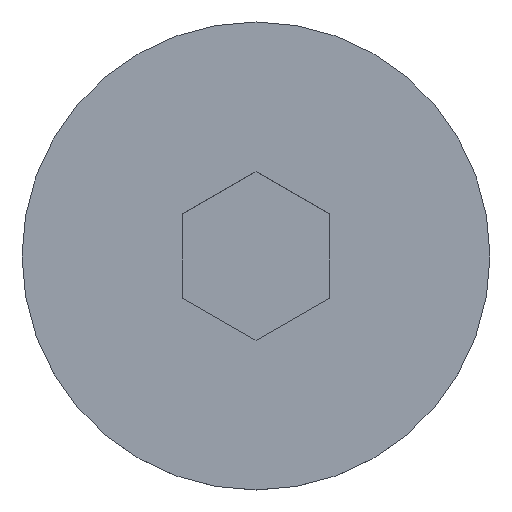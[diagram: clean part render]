
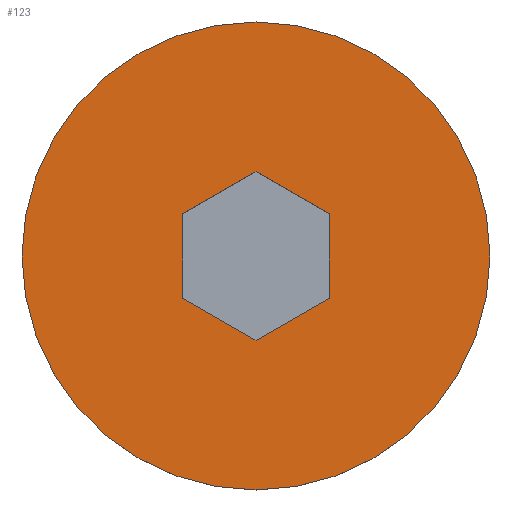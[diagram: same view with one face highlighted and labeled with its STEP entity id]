
A CAD part, top view. The second image highlights one B-rep face of the part: STEP entity #123.
In plain terms, the highlighted planar face has unit normal (0, 0, 1).
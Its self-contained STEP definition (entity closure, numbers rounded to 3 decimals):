
#6 = DIRECTION ( 'NONE',  ( 0., 0., -1. ) ) ;
#7 = EDGE_CURVE ( 'NONE', #260, #57, #319, .T. ) ;
#12 = LINE ( 'NONE', #401, #335 ) ;
#25 = CARTESIAN_POINT ( 'NONE',  ( 0., 3.464, 5.22 ) ) ;
#27 = CARTESIAN_POINT ( 'NONE',  ( -3., 1.732, 5.22 ) ) ;
#38 = VECTOR ( 'NONE', #361, 1000. ) ;
#51 = VERTEX_POINT ( 'NONE', #300 ) ;
#57 = VERTEX_POINT ( 'NONE', #27 ) ;
#58 = ORIENTED_EDGE ( 'NONE', *, *, #316, .F. ) ;
#71 = VECTOR ( 'NONE', #242, 1000. ) ;
#83 = CARTESIAN_POINT ( 'NONE',  ( -3., -1.732, 5.22 ) ) ;
#85 = DIRECTION ( 'NONE',  ( 0., 0., 1. ) ) ;
#86 = ORIENTED_EDGE ( 'NONE', *, *, #209, .F. ) ;
#105 = CARTESIAN_POINT ( 'NONE',  ( 0., -3.464, 5.22 ) ) ;
#108 = DIRECTION ( 'NONE',  ( -1., 0., 0. ) ) ;
#122 = VERTEX_POINT ( 'NONE', #436 ) ;
#123 = ADVANCED_FACE ( 'NONE', ( #137, #418 ), #263, .T. ) ;
#137 = FACE_BOUND ( 'NONE', #161, .T. ) ;
#138 = ORIENTED_EDGE ( 'NONE', *, *, #311, .F. ) ;
#144 = CARTESIAN_POINT ( 'NONE',  ( -9.61, 0., 5.22 ) ) ;
#153 = DIRECTION ( 'NONE',  ( 0., 1., 0. ) ) ;
#155 = CIRCLE ( 'NONE', #297, 9.61 ) ;
#161 = EDGE_LOOP ( 'NONE', ( #221, #216, #58, #375, #164, #219 ) ) ;
#164 = ORIENTED_EDGE ( 'NONE', *, *, #177, .F. ) ;
#166 = EDGE_CURVE ( 'NONE', #447, #122, #295, .T. ) ;
#177 = EDGE_CURVE ( 'NONE', #57, #447, #266, .T. ) ;
#193 = EDGE_LOOP ( 'NONE', ( #86, #138 ) ) ;
#198 = CIRCLE ( 'NONE', #356, 9.61 ) ;
#209 = EDGE_CURVE ( 'NONE', #298, #261, #198, .T. ) ;
#212 = CARTESIAN_POINT ( 'NONE',  ( 0., 0., 5.22 ) ) ;
#216 = ORIENTED_EDGE ( 'NONE', *, *, #416, .F. ) ;
#219 = ORIENTED_EDGE ( 'NONE', *, *, #7, .F. ) ;
#220 = VECTOR ( 'NONE', #269, 1000. ) ;
#221 = ORIENTED_EDGE ( 'NONE', *, *, #293, .F. ) ;
#223 = CARTESIAN_POINT ( 'NONE',  ( -9.61, 0., 5.22 ) ) ;
#228 = DIRECTION ( 'NONE',  ( -0.866, -0.5, 0. ) ) ;
#233 = DIRECTION ( 'NONE',  ( 0.866, -0.5, 0. ) ) ;
#242 = DIRECTION ( 'NONE',  ( -0.866, 0.5, 0. ) ) ;
#247 = DIRECTION ( 'NONE',  ( -1., 0., 0. ) ) ;
#260 = VERTEX_POINT ( 'NONE', #421 ) ;
#261 = VERTEX_POINT ( 'NONE', #275 ) ;
#263 = PLANE ( 'NONE',  #444 ) ;
#266 = LINE ( 'NONE', #412, #220 ) ;
#269 = DIRECTION ( 'NONE',  ( 0., -1., 0. ) ) ;
#270 = VECTOR ( 'NONE', #228, 1000. ) ;
#275 = CARTESIAN_POINT ( 'NONE',  ( 9.61, 0., 5.22 ) ) ;
#278 = CARTESIAN_POINT ( 'NONE',  ( 3., 1.732, 5.22 ) ) ;
#289 = CARTESIAN_POINT ( 'NONE',  ( 3., 1.732, 5.22 ) ) ;
#293 = EDGE_CURVE ( 'NONE', #402, #260, #364, .T. ) ;
#295 = LINE ( 'NONE', #417, #387 ) ;
#297 = AXIS2_PLACEMENT_3D ( 'NONE', #212, #6, #108 ) ;
#298 = VERTEX_POINT ( 'NONE', #144 ) ;
#300 = CARTESIAN_POINT ( 'NONE',  ( 3., -1.732, 5.22 ) ) ;
#311 = EDGE_CURVE ( 'NONE', #261, #298, #155, .T. ) ;
#316 = EDGE_CURVE ( 'NONE', #122, #51, #429, .T. ) ;
#319 = LINE ( 'NONE', #25, #270 ) ;
#333 = DIRECTION ( 'NONE',  ( 1., 0., 0. ) ) ;
#335 = VECTOR ( 'NONE', #153, 1000. ) ;
#356 = AXIS2_PLACEMENT_3D ( 'NONE', #395, #448, #247 ) ;
#361 = DIRECTION ( 'NONE',  ( 0.866, 0.5, 0. ) ) ;
#364 = LINE ( 'NONE', #278, #71 ) ;
#375 = ORIENTED_EDGE ( 'NONE', *, *, #166, .F. ) ;
#387 = VECTOR ( 'NONE', #233, 1000. ) ;
#395 = CARTESIAN_POINT ( 'NONE',  ( 0., 0., 5.22 ) ) ;
#401 = CARTESIAN_POINT ( 'NONE',  ( 3., -1.732, 5.22 ) ) ;
#402 = VERTEX_POINT ( 'NONE', #289 ) ;
#412 = CARTESIAN_POINT ( 'NONE',  ( -3., 1.732, 5.22 ) ) ;
#416 = EDGE_CURVE ( 'NONE', #51, #402, #12, .T. ) ;
#417 = CARTESIAN_POINT ( 'NONE',  ( -3., -1.732, 5.22 ) ) ;
#418 = FACE_OUTER_BOUND ( 'NONE', #193, .T. ) ;
#421 = CARTESIAN_POINT ( 'NONE',  ( 0., 3.464, 5.22 ) ) ;
#429 = LINE ( 'NONE', #105, #38 ) ;
#436 = CARTESIAN_POINT ( 'NONE',  ( 0., -3.464, 5.22 ) ) ;
#444 = AXIS2_PLACEMENT_3D ( 'NONE', #223, #85, #333 ) ;
#447 = VERTEX_POINT ( 'NONE', #83 ) ;
#448 = DIRECTION ( 'NONE',  ( 0., 0., -1. ) ) ;
